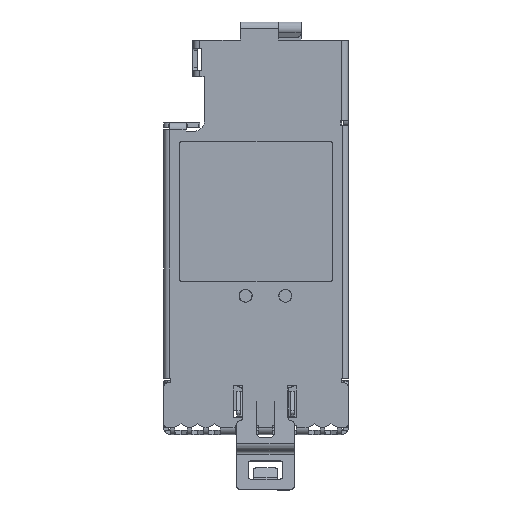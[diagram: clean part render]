
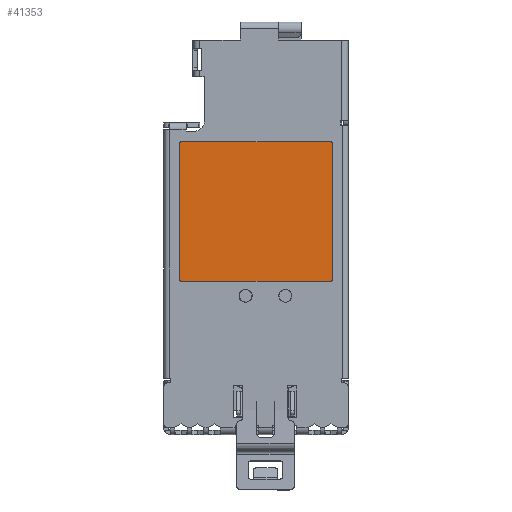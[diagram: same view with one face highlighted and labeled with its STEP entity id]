
A CAD part, left-side view. The second image highlights one B-rep face of the part: STEP entity #41353.
In plain terms, the highlighted planar face has unit normal (-1, 0, 0) as drawn and (1, 0, 0) by its records, which use the part's own axes.
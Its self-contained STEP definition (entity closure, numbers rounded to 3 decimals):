
#41261=CARTESIAN_POINT('',(42.7,3.5,-63.5));
#41262=VERTEX_POINT('',#41261);
#41263=CARTESIAN_POINT('',(42.7,4.,-64.));
#41264=VERTEX_POINT('',#41263);
#41265=CARTESIAN_POINT('',(42.7,4.,-63.5));
#41266=DIRECTION('',(1.0,0.,0.));
#41267=DIRECTION('',(0.,-0.707,-0.707));
#41268=AXIS2_PLACEMENT_3D('',#41265,#41266,#41267);
#41269=CIRCLE('',#41268,0.5);
#41270=EDGE_CURVE('',#41262,#41264,#41269,.T.);
#41288=CARTESIAN_POINT('',(42.7,20.5,-48.5));
#41289=DIRECTION('',(-1.0,0.0,0.0));
#41290=DIRECTION('',(0.0,0.0,1.0));
#41291=AXIS2_PLACEMENT_3D('',#41288,#41289,#41290);
#41292=PLANE('',#41291);
#41293=ORIENTED_EDGE('',*,*,#41270,.T.);
#41294=CARTESIAN_POINT('',(42.7,37.,-64.));
#41295=VERTEX_POINT('',#41294);
#41296=CARTESIAN_POINT('',(42.7,37.,-64.));
#41297=DIRECTION('',(0.0,-1.0,0.0));
#41298=VECTOR('',#41297,33.);
#41299=LINE('',#41296,#41298);
#41300=EDGE_CURVE('',#41295,#41264,#41299,.T.);
#41301=ORIENTED_EDGE('',*,*,#41300,.F.);
#41302=CARTESIAN_POINT('',(42.7,37.5,-63.5));
#41303=VERTEX_POINT('',#41302);
#41304=CARTESIAN_POINT('',(42.7,37.,-63.5));
#41305=DIRECTION('',(1.0,0.,0.));
#41306=DIRECTION('',(0.,0.707,-0.707));
#41307=AXIS2_PLACEMENT_3D('',#41304,#41305,#41306);
#41308=CIRCLE('',#41307,0.5);
#41309=EDGE_CURVE('',#41295,#41303,#41308,.T.);
#41310=ORIENTED_EDGE('',*,*,#41309,.T.);
#41311=CARTESIAN_POINT('',(42.7,37.5,-33.5));
#41312=VERTEX_POINT('',#41311);
#41313=CARTESIAN_POINT('',(42.7,37.5,-33.5));
#41314=DIRECTION('',(0.0,0.0,-1.0));
#41315=VECTOR('',#41314,30.);
#41316=LINE('',#41313,#41315);
#41317=EDGE_CURVE('',#41312,#41303,#41316,.T.);
#41318=ORIENTED_EDGE('',*,*,#41317,.F.);
#41319=CARTESIAN_POINT('',(42.7,37.,-33.));
#41320=VERTEX_POINT('',#41319);
#41321=CARTESIAN_POINT('',(42.7,37.,-33.5));
#41322=DIRECTION('',(1.0,0.,0.));
#41323=DIRECTION('',(0.,0.707,0.707));
#41324=AXIS2_PLACEMENT_3D('',#41321,#41322,#41323);
#41325=CIRCLE('',#41324,0.5);
#41326=EDGE_CURVE('',#41312,#41320,#41325,.T.);
#41327=ORIENTED_EDGE('',*,*,#41326,.T.);
#41328=CARTESIAN_POINT('',(42.7,4.,-33.));
#41329=VERTEX_POINT('',#41328);
#41330=CARTESIAN_POINT('',(42.7,4.,-33.));
#41331=DIRECTION('',(0.0,1.0,0.0));
#41332=VECTOR('',#41331,33.);
#41333=LINE('',#41330,#41332);
#41334=EDGE_CURVE('',#41329,#41320,#41333,.T.);
#41335=ORIENTED_EDGE('',*,*,#41334,.F.);
#41336=CARTESIAN_POINT('',(42.7,3.5,-33.5));
#41337=VERTEX_POINT('',#41336);
#41338=CARTESIAN_POINT('',(42.7,4.,-33.5));
#41339=DIRECTION('',(1.0,0.,0.));
#41340=DIRECTION('',(0.,-0.707,0.707));
#41341=AXIS2_PLACEMENT_3D('',#41338,#41339,#41340);
#41342=CIRCLE('',#41341,0.5);
#41343=EDGE_CURVE('',#41329,#41337,#41342,.T.);
#41344=ORIENTED_EDGE('',*,*,#41343,.T.);
#41345=CARTESIAN_POINT('',(42.7,3.5,-63.5));
#41346=DIRECTION('',(0.0,0.0,1.0));
#41347=VECTOR('',#41346,30.);
#41348=LINE('',#41345,#41347);
#41349=EDGE_CURVE('',#41262,#41337,#41348,.T.);
#41350=ORIENTED_EDGE('',*,*,#41349,.F.);
#41351=EDGE_LOOP('',(#41293,#41301,#41310,#41318,#41327,#41335,#41344,#41350));
#41352=FACE_OUTER_BOUND('',#41351,.T.);
#41353=ADVANCED_FACE('',(#41352),#41292,.F.);
